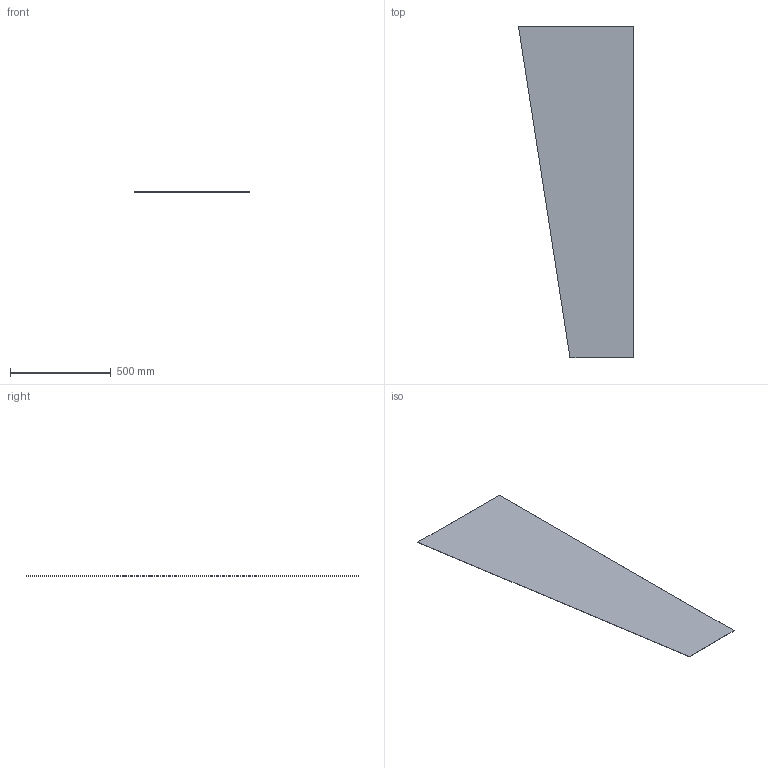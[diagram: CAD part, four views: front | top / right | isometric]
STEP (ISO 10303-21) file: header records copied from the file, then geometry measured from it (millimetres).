
FILE_DESCRIPTION(/* description */ ('PCB Design'),/* implementation_level */ '2;1');
FILE_NAME(/* name */ 'layout_vers_1_left',/* time_stamp */ '2017-07-17T09:37:21+02:00',/* author */ ('delaunay'),/* organization */ (''),/* preprocessor_version */ 'ST-DEVELOPER v16',/* originating_system */ 'allegro_17.2S004',/* authorisation */ '');
FILE_SCHEMA (('AUTOMOTIVE_DESIGN { 1 0 10303 214 3 1 1 }'));
Length unit declared in the file: millimetre
Products named in the file (2): LAYOUT_VERS_1_LEFT; BOARD_OUTLINE
Assembly tree (1 placements, depth 2):
  LAYOUT_VERS_1_LEFT
    BOARD_OUTLINE
Bounding box: 570 x 1645 x 1.3 mm (x, y, z)
Surface area: 1461299 mm2 (no closed solid volume)
Topology: 0 solids, 1 shells, 6 faces, 13 edges, 8 vertices
Faces by surface type: plane 6
Entity records: 189 total; most frequent: ORIENTED_EDGE 24, DIRECTION 20, EDGE_CURVE 13, VECTOR 13, LINE 13, CARTESIAN_POINT 11, VERTEX_POINT 10, AXIS2_PLACEMENT_3D 8
